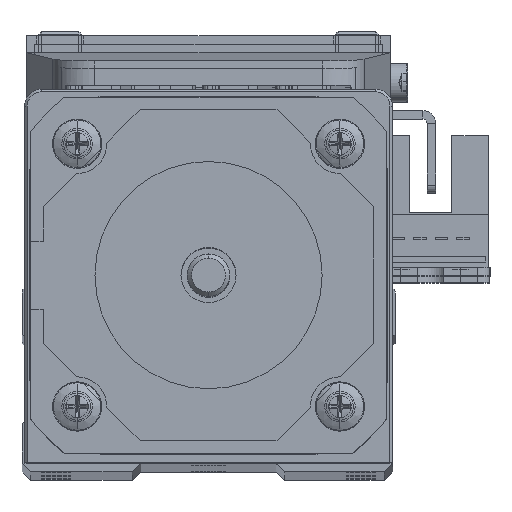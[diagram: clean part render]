
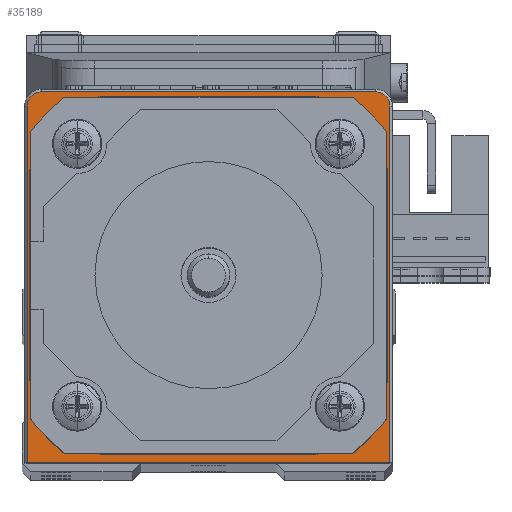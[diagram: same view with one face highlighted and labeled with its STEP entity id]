
A CAD part, top view. The second image highlights one B-rep face of the part: STEP entity #35189.
In plain terms, the highlighted planar face has unit normal (0, 0, 1).
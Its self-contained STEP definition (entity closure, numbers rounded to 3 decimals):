
#2175 = AXIS2_PLACEMENT_3D ( 'NONE', #20584, #43966, #67308 ) ;
#4512 = DIRECTION ( 'NONE',  ( 0., 0., 1. ) ) ;
#4716 = VECTOR ( 'NONE', #74126, 1000. ) ;
#5452 = DIRECTION ( 'NONE',  ( 0., 0., 1. ) ) ;
#5889 = CIRCLE ( 'NONE', #48732, 1.7 ) ;
#6617 = DIRECTION ( 'NONE',  ( 0., -1., 0. ) ) ;
#7082 = DIRECTION ( 'NONE',  ( 0., 1., 0. ) ) ;
#8129 = CIRCLE ( 'NONE', #50993, 10. ) ;
#9742 = CARTESIAN_POINT ( 'NONE',  ( -21.4, -22., 26.5 ) ) ;
#12322 = CARTESIAN_POINT ( 'NONE',  ( 0., 0., 26.5 ) ) ;
#13280 = CARTESIAN_POINT ( 'NONE',  ( -21.4, 20., 26.5 ) ) ;
#14276 = ORIENTED_EDGE ( 'NONE', *, *, #52769, .T. ) ;
#14496 = CARTESIAN_POINT ( 'NONE',  ( 19.7, 21.7, 26.5 ) ) ;
#19782 = ORIENTED_EDGE ( 'NONE', *, *, #72775, .T. ) ;
#20467 = DIRECTION ( 'NONE',  ( -1., 0., 0. ) ) ;
#20584 = CARTESIAN_POINT ( 'NONE',  ( 19.7, 20., 26.5 ) ) ;
#21635 = CARTESIAN_POINT ( 'NONE',  ( 0., 0., 26.5 ) ) ;
#21772 = CIRCLE ( 'NONE', #64555, 10. ) ;
#23340 = VERTEX_POINT ( 'NONE', #36336 ) ;
#23455 = VERTEX_POINT ( 'NONE', #14496 ) ;
#24388 = VERTEX_POINT ( 'NONE', #27600 ) ;
#24598 = VERTEX_POINT ( 'NONE', #41724 ) ;
#25960 = EDGE_CURVE ( 'NONE', #24388, #24598, #8129, .T. ) ;
#27374 = LINE ( 'NONE', #50765, #4716 ) ;
#27385 = FACE_OUTER_BOUND ( 'NONE', #70051, .T. ) ;
#27600 = CARTESIAN_POINT ( 'NONE',  ( -10., 0., 26.5 ) ) ;
#27763 = VERTEX_POINT ( 'NONE', #9742 ) ;
#27887 = DIRECTION ( 'NONE',  ( 1., 0., 0. ) ) ;
#28153 = CARTESIAN_POINT ( 'NONE',  ( 21.4, -22., 26.5 ) ) ;
#28221 = ORIENTED_EDGE ( 'NONE', *, *, #37832, .T. ) ;
#28811 = DIRECTION ( 'NONE',  ( 1., 0., 0. ) ) ;
#29222 = EDGE_LOOP ( 'NONE', ( #36544, #39041 ) ) ;
#35189 = ADVANCED_FACE ( 'NONE', ( #27385, #50774 ), #74138, .T. ) ;
#35686 = VERTEX_POINT ( 'NONE', #13280 ) ;
#35687 = DIRECTION ( 'NONE',  ( 0., 0., 1. ) ) ;
#35714 = LINE ( 'NONE', #59079, #45376 ) ;
#36184 = LINE ( 'NONE', #59537, #75774 ) ;
#36336 = CARTESIAN_POINT ( 'NONE',  ( 21.4, 20., 26.5 ) ) ;
#36544 = ORIENTED_EDGE ( 'NONE', *, *, #25960, .F. ) ;
#37573 = EDGE_CURVE ( 'NONE', #23455, #64067, #49600, .T. ) ;
#37832 = EDGE_CURVE ( 'NONE', #35686, #27763, #35714, .T. ) ;
#38409 = ORIENTED_EDGE ( 'NONE', *, *, #37573, .T. ) ;
#39041 = ORIENTED_EDGE ( 'NONE', *, *, #67661, .F. ) ;
#39143 = ORIENTED_EDGE ( 'NONE', *, *, #68776, .T. ) ;
#41724 = CARTESIAN_POINT ( 'NONE',  ( 10., 0., 26.5 ) ) ;
#43966 = DIRECTION ( 'NONE',  ( 0., 0., 1. ) ) ;
#45013 = DIRECTION ( 'NONE',  ( 0., 0., 1. ) ) ;
#45376 = VECTOR ( 'NONE', #6617, 1000. ) ;
#47002 = AXIS2_PLACEMENT_3D ( 'NONE', #21635, #45013, #68381 ) ;
#48732 = AXIS2_PLACEMENT_3D ( 'NONE', #56998, #4512, #27887 ) ;
#49600 = LINE ( 'NONE', #72971, #51449 ) ;
#50765 = CARTESIAN_POINT ( 'NONE',  ( -21.7, -22., 26.5 ) ) ;
#50774 = FACE_BOUND ( 'NONE', #29222, .T. ) ;
#50993 = AXIS2_PLACEMENT_3D ( 'NONE', #12322, #35687, #59053 ) ;
#51449 = VECTOR ( 'NONE', #20467, 1000. ) ;
#51733 = EDGE_CURVE ( 'NONE', #27763, #65865, #27374, .T. ) ;
#52769 = EDGE_CURVE ( 'NONE', #64067, #35686, #5889, .T. ) ;
#56998 = CARTESIAN_POINT ( 'NONE',  ( -19.7, 20., 26.5 ) ) ;
#57924 = CARTESIAN_POINT ( 'NONE',  ( 0., 0., 26.5 ) ) ;
#59053 = DIRECTION ( 'NONE',  ( 1., 0., 0. ) ) ;
#59079 = CARTESIAN_POINT ( 'NONE',  ( -21.4, -22., 26.5 ) ) ;
#59537 = CARTESIAN_POINT ( 'NONE',  ( 21.4, 20., 26.5 ) ) ;
#62192 = ORIENTED_EDGE ( 'NONE', *, *, #51733, .T. ) ;
#64067 = VERTEX_POINT ( 'NONE', #74265 ) ;
#64555 = AXIS2_PLACEMENT_3D ( 'NONE', #57924, #5452, #28811 ) ;
#65865 = VERTEX_POINT ( 'NONE', #28153 ) ;
#67308 = DIRECTION ( 'NONE',  ( 1., 0., 0. ) ) ;
#67661 = EDGE_CURVE ( 'NONE', #24598, #24388, #21772, .T. ) ;
#68264 = CIRCLE ( 'NONE', #2175, 1.7 ) ;
#68381 = DIRECTION ( 'NONE',  ( 1., 0., 0. ) ) ;
#68776 = EDGE_CURVE ( 'NONE', #23340, #23455, #68264, .T. ) ;
#70051 = EDGE_LOOP ( 'NONE', ( #62192, #19782, #39143, #38409, #14276, #28221 ) ) ;
#72775 = EDGE_CURVE ( 'NONE', #65865, #23340, #36184, .T. ) ;
#72971 = CARTESIAN_POINT ( 'NONE',  ( -19.7, 21.7, 26.5 ) ) ;
#74126 = DIRECTION ( 'NONE',  ( 1., 0., 0. ) ) ;
#74138 = PLANE ( 'NONE',  #47002 ) ;
#74265 = CARTESIAN_POINT ( 'NONE',  ( -19.7, 21.7, 26.5 ) ) ;
#75774 = VECTOR ( 'NONE', #7082, 1000. ) ;
